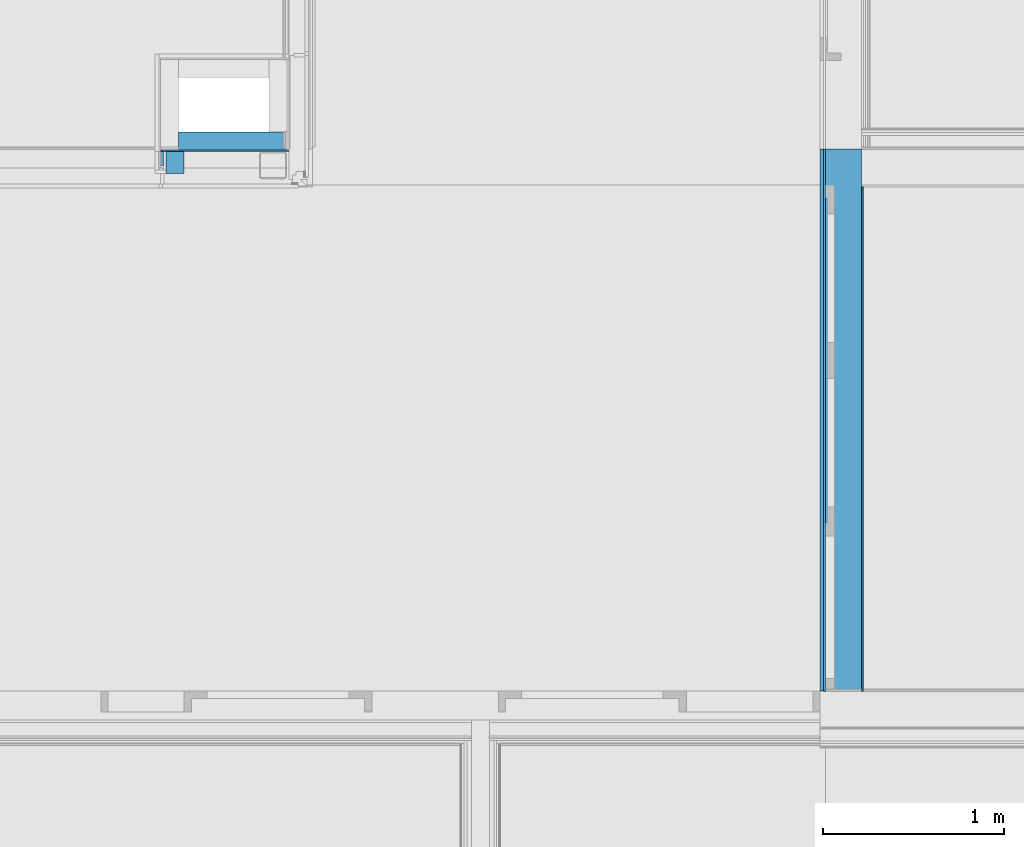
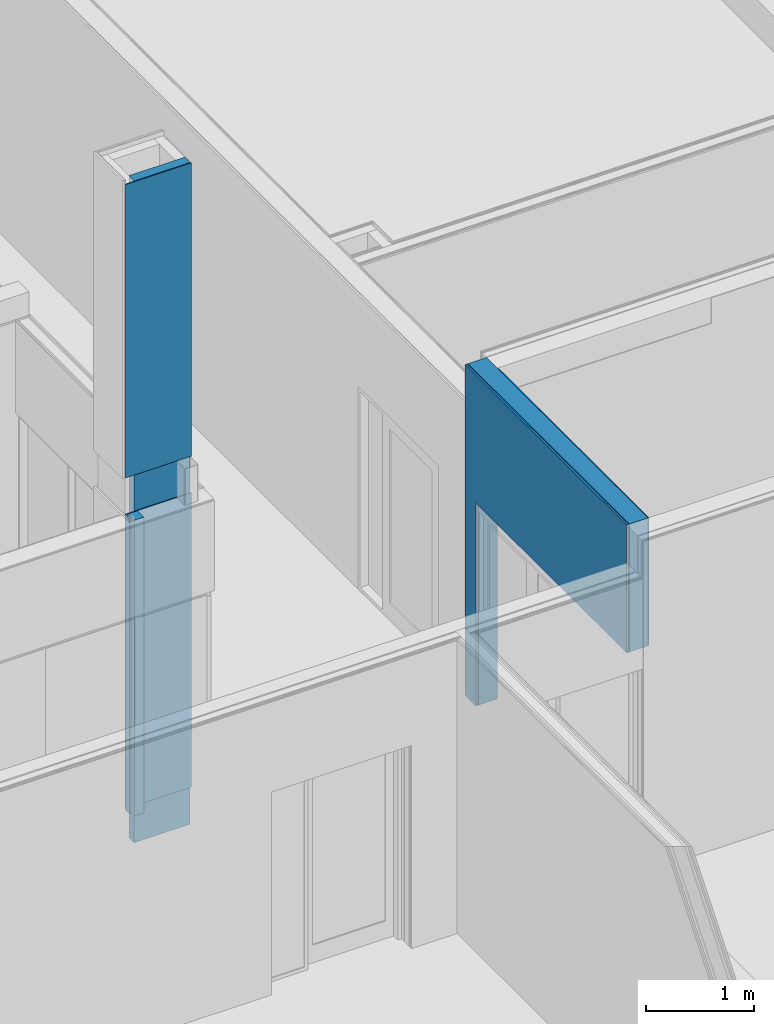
# One storey, part 110 of 139: 8 building element parts, 2 openings, 3 elements without a shape of their own.
"""IFC2X3 building model written with IfcOpenShell, lengths in millimetres."""

from ifc_helpers import new_model, entity, si_unit, converted_unit, derived_unit, money_unit, direction, frame, origin_with_axes, place, context, subcontext, project, spatial, faceted_brep, material, type_object, element, aggregate, save


model = new_model("IFC2X3")

# Units and contexts
model_context = context("Model", 3, precision=0.01, world=origin_with_axes(), true_north=direction((0.0, 1.0)))
body_context = subcontext(model_context, "Body", "Model", "MODEL_VIEW")
ifc_project = project(units=[si_unit("LENGTHUNIT", "METRE", prefix="MILLI"), si_unit("AREAUNIT", "SQUARE_METRE"), si_unit("VOLUMEUNIT", "CUBIC_METRE"), converted_unit("PLANEANGLEUNIT", "DEGREE", entity("IfcPlaneAngleMeasure", 0.0174532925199), si_unit("PLANEANGLEUNIT", "RADIAN"), dimensions=[0, 0, 0, 0, 0, 0, 0]), money_unit("EUR"), converted_unit("TIMEUNIT", "Year", entity("IfcTimeMeasure", 31556926.0), si_unit("TIMEUNIT", "SECOND"), dimensions=[0, 0, 1, 0, 0, 0, 0]), si_unit("MASSUNIT", "GRAM", prefix="KILO"), si_unit("THERMODYNAMICTEMPERATUREUNIT", "DEGREE_CELSIUS"), si_unit("LUMINOUSINTENSITYUNIT", "LUMEN"), si_unit("ENERGYUNIT", "JOULE", prefix="MEGA"), derived_unit("THERMALCONDUCTANCEUNIT", [(si_unit("POWERUNIT", "WATT"), 1), (si_unit("LENGTHUNIT", "METRE"), -1), (si_unit("THERMODYNAMICTEMPERATUREUNIT", "KELVIN"), -1)]), derived_unit("SPECIFICHEATCAPACITYUNIT", [(si_unit("ENERGYUNIT", "JOULE"), 1), (si_unit("MASSUNIT", "GRAM", prefix="KILO"), -1), (si_unit("THERMODYNAMICTEMPERATUREUNIT", "KELVIN"), -1)]), derived_unit("MASSDENSITYUNIT", [(si_unit("MASSUNIT", "GRAM", prefix="KILO"), 1), (si_unit("VOLUMEUNIT", "CUBIC_METRE"), -1)])], contexts=[model_context])

# Site, building, storey
site_placement = place(None, origin_with_axes())
site = spatial("IfcSite", under=ifc_project, at=site_placement, Name="Kolde pst 67a", CompositionType="ELEMENT")
building_placement = place(site_placement, origin_with_axes())
building = spatial("IfcBuilding", under=site, at=building_placement, Name="Riigigümnaasium", CompositionType="ELEMENT")
storey_placement = place(building_placement, frame((0.0, 0.0, 4600.0), z_axis=(0.0, 0.0, 1.0), x_axis=(1.0, 0.0, 0.0)))
storey = spatial("IfcBuildingStorey", under=building, at=storey_placement, Name="2. korrus", CompositionType="ELEMENT", Elevation=4600.0)

# Wall, opening, building element parts
wall_type_1 = type_object("IfcWallType", Name="SS-RB-20/3_+krohv+dold 240", PredefinedType="NOTDEFINED")
wall_1_placement = place(storey_placement, frame((76819.9946973, 10899.9619407, 0.0), z_axis=(0.0, 0.0, 1.0), x_axis=(1.64701632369e-09, -1.0, 0.0)))
wall_1 = element("IfcWall", 1, at=wall_1_placement, inside=storey, type_object=wall_type_1, Name="Sisesein")
opening_1_placement = place(wall_1_placement, frame((1600.61585026, 0.0, 0.0), z_axis=(0.0, 0.0, 1.0), x_axis=(1.0, 0.0, 0.0)))
element("IfcOpeningElement", 2, at=opening_1_placement, cuts=wall_1, Name="Kahepoolne siseuks", context=body_context, shape_type="Brep", body=[
    faceted_brep([(-1400.00000041, -479.999997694, 0.0), (-1400.00000041, -479.999997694, 2300.0), (-1399.99999923, 240.000002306, 2300.0), (-1399.99999923, 240.000002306, 0.0), (1399.99999959, -480.000002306, 0.0), (1399.99999959, -480.000002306, 2300.0), (1400.00000077, 239.999997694, 2300.0), (1400.00000077, 239.999997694, 0.0)], [[[0, 1, 2, 3]], [[0, 4, 5, 1]], [[1, 5, 6, 2]], [[3, 2, 6, 7]], [[4, 0, 3, 7]], [[5, 4, 7, 6]]]),
])
ifc_material_1 = material(Name="_VIIMISTLUSKIHT - viimistlus vastavalt SA osale")
building_element_part_1_placement = place(wall_1_placement, origin_with_axes())
building_element_part_1 = element("IfcBuildingElementPart", 3, at=building_element_part_1_placement, material=ifc_material_1, Name="_VIIMISTLUSKIHT - viimistlus vastavalt SA osale", context=body_context, shape_type="Brep", body=[
    faceted_brep([(210.000000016, 9.99999965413, 2300.0), (210.000000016, 9.99999965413, 3750.0), (2999.96194072, 9.99999505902, 3750.0), (2999.96194072, 9.99999505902, 2300.0), (210.0, -3.45877992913e-07, 3750.0), (210.0, -3.45877992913e-07, 2300.0), (2999.9619407, -4.94098628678e-06, 3750.0), (2999.9619407, -4.94098628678e-06, 2300.0)], [[[0, 1, 2, 3]], [[4, 1, 0, 5]], [[1, 4, 6, 2]], [[6, 7, 3, 2]], [[5, 0, 3, 7]], [[4, 5, 7, 6]]]),
])
ifc_material_2 = material(Name="_KANDETARIND - monteeritav raudbetoon vastavalt EK osale")
building_element_part_2_placement = place(wall_1_placement, origin_with_axes())
building_element_part_2 = element("IfcBuildingElementPart", 4, at=building_element_part_2_placement, material=ifc_material_2, Name="_KANDETARIND - monteeritav raudbetoon vastavalt EK osale", context=body_context, shape_type="Brep", body=[
    faceted_brep([(2999.9619407, -4.94098628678e-06, 2300.0), (200.615850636, -3.30416582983e-07, 2300.0), (200.615850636, -3.30416582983e-07, 0.0), (0.0, 0.0, 0.0), (0.0, 0.0, 3750.0), (2999.9619407, -4.94098628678e-06, 3750.0), (200.615850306, -200.00000033, 2300.0), (2999.96194037, -200.000004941, 2300.0), (200.615850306, -200.00000033, 0.0), (-3.29404059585e-07, -200.0, 0.0), (-3.29404059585e-07, -200.0, 3750.0), (2999.96194037, -200.000004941, 3750.0)], [[[0, 1, 2, 3, 4, 5]], [[6, 1, 0, 7]], [[8, 2, 1, 6]], [[3, 2, 8, 9]], [[10, 4, 3, 9]], [[11, 5, 4, 10]], [[11, 7, 0, 5]], [[8, 6, 7, 11, 10, 9]]]),
])
ifc_material_3 = material(Name="_KARKASS - eriprofiilkinnitus vastavalt sisemisele plaatviimistlusele")
building_element_part_3_placement = place(wall_1_placement, origin_with_axes())
building_element_part_3 = element("IfcBuildingElementPart", 5, at=building_element_part_3_placement, material=ifc_material_3, Name="_KARKASS - eriprofiilkinnitus vastavalt sisemisele plaatviimistlusele", context=body_context, shape_type="Brep", body=[
    faceted_brep([(200.615850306, -200.00000033, 2300.0), (200.615850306, -200.00000033, 0.0), (-3.29404059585e-07, -200.0, 0.0), (-3.29404059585e-07, -200.0, 3750.0), (2999.96194037, -200.000004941, 3750.0), (2999.96194037, -200.000004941, 2300.0), (200.61585029, -210.00000033, 2300.0), (200.61585029, -210.00000033, 0.0), (-3.45872663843e-07, -210.0, 0.0), (-3.45872663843e-07, -210.0, 3750.0), (2999.96194035, -210.000004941, 3750.0), (2999.96194035, -210.000004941, 2300.0)], [[[0, 1, 2, 3, 4, 5]], [[1, 0, 6, 7]], [[1, 7, 8, 2]], [[3, 2, 8, 9]], [[4, 3, 9, 10]], [[11, 5, 4, 10]], [[0, 5, 11, 6]], [[6, 11, 10, 9, 8, 7]]]),
])
building_element_part_4_placement = place(wall_1_placement, origin_with_axes())
building_element_part_4 = element("IfcBuildingElementPart", 6, at=building_element_part_4_placement, material=ifc_material_1, Name="_VIIMISTLUSKIHT - viimistlus vastavalt SA osale", context=body_context, shape_type="Brep", body=[
    faceted_brep([(200.61585029, -210.00000033, 2300.0), (200.61585029, -210.00000033, 0.0), (-3.45872663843e-07, -210.0, 0.0), (-3.45872663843e-07, -210.0, 3750.0), (2999.96194035, -210.000004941, 3750.0), (2999.96194035, -210.000004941, 2300.0), (200.615850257, -230.00000033, 2300.0), (200.615850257, -230.00000033, 0.0), (-3.78813425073e-07, -230.0, 0.0), (-3.78813425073e-07, -230.0, 3750.0), (2999.96194032, -230.000004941, 3750.0), (2999.96194032, -230.000004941, 2300.0)], [[[0, 1, 2, 3, 4, 5]], [[1, 0, 6, 7]], [[1, 7, 8, 2]], [[3, 2, 8, 9]], [[4, 3, 9, 10]], [[11, 5, 4, 10]], [[0, 5, 11, 6]], [[6, 11, 10, 9, 8, 7]]]),
])
aggregate(wall_1, [building_element_part_1, building_element_part_2, building_element_part_3, building_element_part_4])

# Wall, building element parts
wall_type_2 = type_object("IfcWallType", Name="SS-KP-10/4_SE šahti sein +krohv 110", PredefinedType="NOTDEFINED")
wall_2_placement = place(storey_placement, frame((72939.9987825, 10894.9394142, -425.0), z_axis=(0.0, 0.0, 1.0), x_axis=(1.0, -3.77273425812e-09, 0.0)))
wall_2 = element("IfcWall", 7, at=wall_2_placement, inside=storey, type_object=wall_type_2, Name="SE šaht")
ifc_material_4 = material(Name="_KANDETARIND - kergplokk Fibo 100mm")
building_element_part_5_placement = place(wall_2_placement, origin_with_axes())
building_element_part_5 = element("IfcBuildingElementPart", 8, at=building_element_part_5_placement, material=ifc_material_4, Name="_KANDETARIND - kergplokk Fibo 100mm", context=body_context, shape_type="Brep", body=[
    faceted_brep([(100.000001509, 100.000000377, 7500.0), (100.000001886, 3.77273323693e-07, 7500.0), (700.000752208, 2.64091681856e-06, 7500.0), (700.00075183, 100.000002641, 7500.0), (100.000001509, 100.000000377, 0.0), (100.000001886, 3.77273323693e-07, 0.0), (700.000752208, 2.64091681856e-06, 0.0), (700.00075183, 100.000002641, 0.0)], [[[0, 1, 2, 3]], [[4, 5, 1, 0]], [[1, 5, 6, 2]], [[2, 6, 7, 3]], [[4, 0, 3, 7]], [[5, 4, 7, 6]]]),
])
building_element_part_6_placement = place(wall_2_placement, origin_with_axes())
building_element_part_6 = element("IfcBuildingElementPart", 9, at=building_element_part_6_placement, material=ifc_material_1, Name="_VIIMISTLUSKIHT - viimistlus vastavalt SA osale", context=body_context, shape_type="Brep", body=[
    faceted_brep([(0.0, 0.0, 3760.0), (700.000752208, 0.0, 3760.0), (710.000752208, 2.67864308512e-06, 3760.0), (710.000752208, 2.67864308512e-06, 425.0), (700.000769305, 6.03934093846e-05, 425.0), (1.91708551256e-05, 5.7752492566e-05, 425.0), (710.000752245, -9.99999732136, 3760.0), (1.92409288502e-06, -9.99999665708, 3760.0), (710.000752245, -9.99999732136, 425.0), (129.999977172, -9.99997002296, 425.0), (1.92409288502e-06, -9.99997051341, 425.0)], [[[0, 1, 2, 3, 4, 5]], [[6, 2, 1, 0, 7]], [[2, 6, 8, 3]], [[5, 4, 3, 8, 9, 10]], [[7, 0, 5, 10]], [[6, 7, 10, 9, 8]]]),
    faceted_brep([(710.000752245, -9.99999732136, 4175.0), (710.000752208, 2.67864308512e-06, 4175.0), (710.000752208, 2.67864308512e-06, 7499.99999847), (710.000752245, -9.99999732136, 7499.99999847), (700.000752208, 0.0, 4175.0), (129.999999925, -9.99999939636, 4175.0), (1.92409288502e-06, -9.99999988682, 4175.0), (0.0, 0.0, 4175.0), (1.88636306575e-06, 3.77273323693e-07, 7500.0), (1.92409288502e-06, -10.0, 7500.0)], [[[0, 1, 2, 3]], [[4, 1, 0, 5, 6, 7]], [[4, 7, 8, 2, 1]], [[8, 9, 3, 2]], [[5, 0, 3, 9, 6]], [[7, 6, 9, 8]]]),
])
aggregate(wall_2, [building_element_part_5, building_element_part_6])

# Wall, opening, building element parts
wall_type_3 = type_object("IfcWallType", Name="SS-MK-10/4_šahti sein+dold  160", PredefinedType="NOTDEFINED")
wall_3_placement = place(storey_placement, frame((72909.9987824, 10884.9394143, -15.0), z_axis=(0.0, 0.0, 1.0), x_axis=(0.0, -1.0, 0.0)))
wall_3 = element("IfcWall", 10, at=wall_3_placement, inside=storey, type_object=wall_type_3, Name="Varisein")
opening_2_placement = place(wall_3_placement, frame((119.97746869, 0.0, 0.0), z_axis=(0.0, 0.0, 1.0), x_axis=(1.0, 0.0, 0.0)))
element("IfcOpeningElement", 11, at=opening_2_placement, cuts=wall_3, Name="Pale", context=body_context, shape_type="Brep", body=[
    faceted_brep([(-20.0, 0.0, 0.0), (0.0, 0.0, 0.0), (0.0, 0.0, 3395.0), (-20.0, 0.0, 3395.0), (-20.0, 60.0, 0.0), (0.0, 60.0, 0.0), (0.0, 60.0, 3395.0), (-20.0, 60.0, 3395.0)], [[[0, 1, 2, 3]], [[0, 4, 5, 1]], [[1, 5, 6, 2]], [[3, 2, 6, 7]], [[4, 0, 3, 7]], [[5, 4, 7, 6]]]),
    faceted_brep([(-30.0, 20.0, 0.0), (-20.0, 20.0, 0.0), (-20.0, 20.0, 3395.0), (-30.0, 20.0, 3395.0), (-30.0, 45.0, 0.0), (-20.0, 45.0, 0.0), (-20.0, 45.0, 3395.0), (-30.0, 45.0, 3395.0)], [[[0, 1, 2, 3]], [[0, 4, 5, 1]], [[1, 5, 6, 2]], [[3, 2, 6, 7]], [[4, 0, 3, 7]], [[5, 4, 7, 6]]]),
    faceted_brep([(-45.0, 30.0, 0.0), (-30.0, 30.0, 0.0), (-30.0, 30.0, 3395.0), (-45.0, 30.0, 3395.0), (-45.0, 45.0, 0.0), (-30.0, 45.0, 0.0), (-30.0, 45.0, 3395.0), (-45.0, 45.0, 3395.0)], [[[0, 1, 2, 3]], [[0, 4, 5, 1]], [[1, 5, 6, 2]], [[3, 2, 6, 7]], [[4, 0, 3, 7]], [[5, 4, 7, 6]]]),
])
ifc_material_5 = material(Name="_KARKASS - metallkarkass CW 100/50/06 ja UW 100/40/06, samm 600, vahel mineraalvill, helineeldetegur αw = 1.0,  ISOVER ACOUSTIC 100mm või samaväärne")
building_element_part_7_placement = place(wall_3_placement, origin_with_axes())
building_element_part_7 = element("IfcBuildingElementPart", 12, at=building_element_part_7_placement, material=ifc_material_5, Name="_KARKASS - metallkarkass CW 100/50/06 ja UW 100/40/06, samm 600, vahel mineraalvill, helineeldetegur αw = 1.0,  ISOVER ACOUSTIC 100mm või samaväärne", context=body_context, shape_type="Brep", body=[
    faceted_brep([(0.0, 60.0, 3350.0), (0.0, 160.0, 3350.0), (0.0, 160.0, 0.0), (0.0, 60.0, 0.0), (119.97746869, 160.0, 3350.0), (119.97746869, 60.0, 3350.0), (119.97746869, 160.0, 0.0), (119.97746869, 60.0, 0.0)], [[[0, 1, 2, 3]], [[4, 1, 0, 5]], [[1, 4, 6, 2]], [[2, 6, 7, 3]], [[5, 0, 3, 7]], [[4, 5, 7, 6]]]),
])
ifc_material_6 = material(Name="_PLAATMATERJAL - tuletõkkekipsplaat, Knauf Red GKF või samaväärne")
building_element_part_8_placement = place(wall_3_placement, origin_with_axes())
building_element_part_8 = element("IfcBuildingElementPart", 13, at=building_element_part_8_placement, material=ifc_material_6, Name="_PLAATMATERJAL - tuletõkkekipsplaat, Knauf Red GKF või samaväärne", context=body_context, shape_type="Brep", body=[
    faceted_brep([(74.9774686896, 30.0, 3350.0), (74.9774686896, 45.0, 3350.0), (0.0, 45.0, 3350.0), (0.0, 30.0, 3350.0), (74.9774686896, 45.0, 0.0), (74.9774686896, 30.0, 0.0), (0.0, 45.0, 0.0), (0.0, 30.0, 0.0)], [[[0, 1, 2, 3]], [[4, 1, 0, 5]], [[1, 4, 6, 2]], [[7, 3, 2, 6]], [[5, 0, 3, 7]], [[4, 5, 7, 6]]]),
])
aggregate(wall_3, [building_element_part_7, building_element_part_8])

save(model, "model.ifc")
